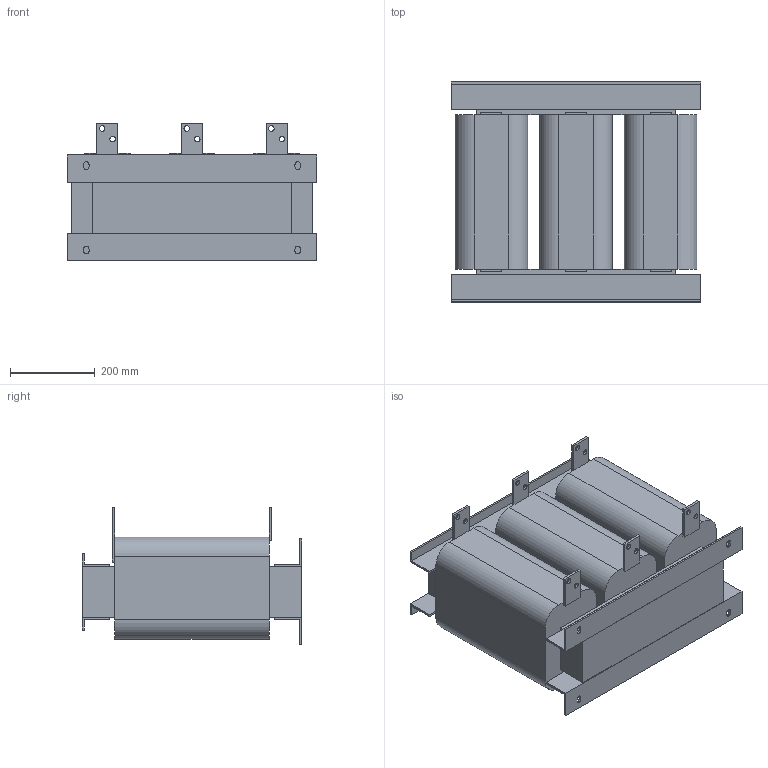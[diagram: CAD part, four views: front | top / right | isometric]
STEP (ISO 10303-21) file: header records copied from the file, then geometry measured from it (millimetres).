
FILE_DESCRIPTION(/* description */ (''),/* implementation_level */ '2;1');
FILE_NAME(/* name */ 'ACO-0760-T6-4.stp',/* time_stamp */ '2025-01-23T16:41:20+04:00',/* author */ ('Александр (огранич)'),/* organization */ (''),/* preprocessor_version */ 'ST-DEVELOPER v19.2',/* originating_system */ 'Autodesk Inventor 2024',/* authorisation */ '');
FILE_SCHEMA (('AUTOMOTIVE_DESIGN { 1 0 10303 214 3 1 1 }'));
Length unit declared in the file: millimetre
Products named in the file (1): ACO-0015-T4-4
Bounding box: 590 x 520 x 325 mm (x, y, z)
Volume: 53570007.6 mm3; surface area: 1612852.2 mm2
Topology: 1 solids, 1 shells, 142 faces, 396 edges, 252 vertices
Faces by surface type: plane 110, cylinder 32
Full cylindrical faces by diameter (mm): 13 x12
Entity records: 4591 total; most frequent: ORIENTED_EDGE 792, CARTESIAN_POINT 791, DIRECTION 746, EDGE_CURVE 396, LINE 332, VECTOR 332, VERTEX_POINT 252, AXIS2_PLACEMENT_3D 207
